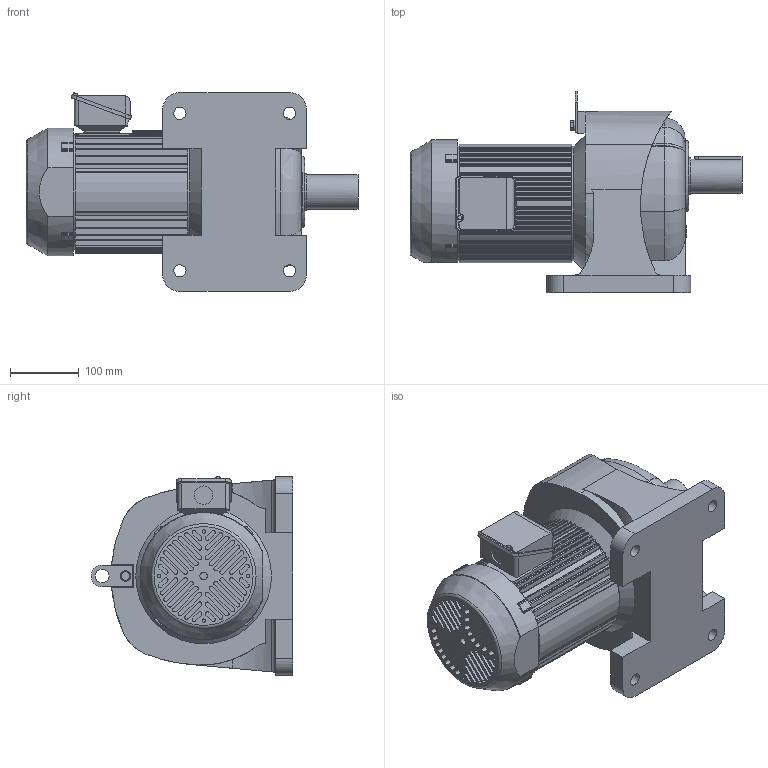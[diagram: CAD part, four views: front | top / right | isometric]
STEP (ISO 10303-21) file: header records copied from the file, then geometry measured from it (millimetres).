
FILE_DESCRIPTION( ( 'STEP AP203' ), ' ' );
FILE_NAME( 'p:/temp/worker_44/3644_3424/app_65_12017032209173438027119260eae72_000000_00_00_000000/format_0/G3L50N100N-IPM150NT.stp', '2017-03-22T08:17:36', ( '' ), ( '' ), ' ', 'PARTsolutions', ' ' );
FILE_SCHEMA( ( 'CONFIG_CONTROL_DESIGN' ) );
Length unit declared in the file: millimetre
Products named in the file (8): G3L50N100N-IPM150NT; _GL50; _SP050; HI_T150; HI_1522MW; _T-BOX010; _KEY 50; _50-11.5-hook
Assembly tree (7 placements, depth 2):
  G3L50N100N-IPM150NT
    _GL50
    _SP050
    HI_T150
    HI_1522MW
    _T-BOX010
    _KEY 50
    _50-11.5-hook
Bounding box: 484.5 x 294 x 290.02 mm (x, y, z)
Volume: 15268872.3 mm3; surface area: 734123 mm2
Topology: 7 solids, 7 shells, 802 faces, 2182 edges, 1446 vertices
Faces by surface type: cylinder 411, plane 368, torus 11, cone 8, bspline 4
Full cylindrical faces by diameter (mm): 4.8 x4, 6.4 x1, 11 x1, 15.4 x1, 18 x4, 20 x1, 27 x1, 50 x1, 53 x1, 167 x2
Entity records: 26627 total; most frequent: CARTESIAN_POINT 5578, DIRECTION 4505, ORIENTED_EDGE 4308, EDGE_CURVE 2154, AXIS2_PLACEMENT_3D 1639, VERTEX_POINT 1439, LINE 1227, VECTOR 1227
